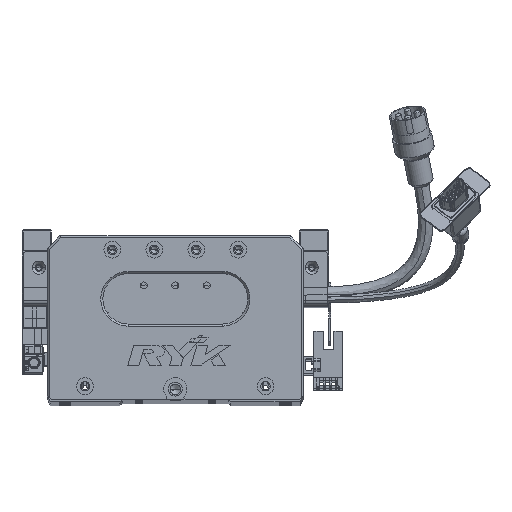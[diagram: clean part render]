
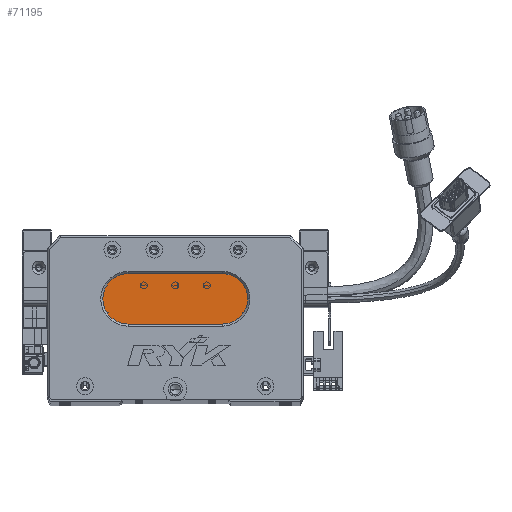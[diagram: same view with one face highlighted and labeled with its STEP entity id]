
A CAD part, top view. The second image highlights one B-rep face of the part: STEP entity #71195.
In plain terms, the highlighted planar face has unit normal (0, 0, 1) as drawn and (0, 0, -1) by its records, which use the part's own axes.
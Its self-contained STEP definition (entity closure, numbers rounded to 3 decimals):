
#7254 = DIRECTION ( 'NONE',  ( 1., 0., 0. ) ) ;
#7439 = ORIENTED_EDGE ( 'NONE', *, *, #72463, .T. ) ;
#9741 = CARTESIAN_POINT ( 'NONE',  ( 83.5, 48., 13. ) ) ;
#16029 = CARTESIAN_POINT ( 'NONE',  ( 38.5, 36., 13. ) ) ;
#22758 = DIRECTION ( 'NONE',  ( 0., 0., -1. ) ) ;
#23708 = VECTOR ( 'NONE', #53766, 1000. ) ;
#26715 = CARTESIAN_POINT ( 'NONE',  ( 83.5, 36., 13. ) ) ;
#27230 = CIRCLE ( 'NONE', #43556, 12. ) ;
#28757 = EDGE_CURVE ( 'NONE', #79557, #62641, #35171, .T. ) ;
#35171 = LINE ( 'NONE', #54194, #74810 ) ;
#35548 = DIRECTION ( 'NONE',  ( 0., 0., -1. ) ) ;
#36364 = CIRCLE ( 'NONE', #67636, 12. ) ;
#36388 = CARTESIAN_POINT ( 'NONE',  ( 83.5, 48., 13. ) ) ;
#41226 = CARTESIAN_POINT ( 'NONE',  ( 38.5, 48., 13. ) ) ;
#42044 = VERTEX_POINT ( 'NONE', #80740 ) ;
#43556 = AXIS2_PLACEMENT_3D ( 'NONE', #41226, #74486, #61353 ) ;
#45379 = CIRCLE ( 'NONE', #48480, 12. ) ;
#45622 = CARTESIAN_POINT ( 'NONE',  ( 38.5, 60., 13. ) ) ;
#46657 = LINE ( 'NONE', #26715, #23708 ) ;
#48480 = AXIS2_PLACEMENT_3D ( 'NONE', #9741, #55790, #83559 ) ;
#53766 = DIRECTION ( 'NONE',  ( -1., 0., 0. ) ) ;
#54194 = CARTESIAN_POINT ( 'NONE',  ( 83.5, 60., 13. ) ) ;
#55258 = ORIENTED_EDGE ( 'NONE', *, *, #71227, .T. ) ;
#55790 = DIRECTION ( 'NONE',  ( 0., 0., -1. ) ) ;
#55946 = CARTESIAN_POINT ( 'NONE',  ( 83.5, 60., 13. ) ) ;
#57159 = ORIENTED_EDGE ( 'NONE', *, *, #28757, .T. ) ;
#59482 = ORIENTED_EDGE ( 'NONE', *, *, #78002, .T. ) ;
#61353 = DIRECTION ( 'NONE',  ( -1., 0., 0. ) ) ;
#61859 = ORIENTED_EDGE ( 'NONE', *, *, #68619, .T. ) ;
#62364 = PLANE ( 'NONE',  #81622 ) ;
#62641 = VERTEX_POINT ( 'NONE', #55946 ) ;
#62949 = DIRECTION ( 'NONE',  ( -1., 0., 0. ) ) ;
#65804 = EDGE_LOOP ( 'NONE', ( #59482, #7439, #55258, #61859, #57159 ) ) ;
#67636 = AXIS2_PLACEMENT_3D ( 'NONE', #76674, #22758, #62949 ) ;
#68619 = EDGE_CURVE ( 'NONE', #42044, #79557, #27230, .T. ) ;
#69359 = DIRECTION ( 'NONE',  ( -1., 0., 0. ) ) ;
#71195 = ADVANCED_FACE ( 'NONE', ( #73941 ), #62364, .T. ) ;
#71227 = EDGE_CURVE ( 'NONE', #84055, #42044, #36364, .T. ) ;
#72463 = EDGE_CURVE ( 'NONE', #83886, #84055, #46657, .T. ) ;
#73941 = FACE_OUTER_BOUND ( 'NONE', #65804, .T. ) ;
#74486 = DIRECTION ( 'NONE',  ( 0., 0., -1. ) ) ;
#74810 = VECTOR ( 'NONE', #7254, 1000. ) ;
#76674 = CARTESIAN_POINT ( 'NONE',  ( 38.5, 48., 13. ) ) ;
#78002 = EDGE_CURVE ( 'NONE', #62641, #83886, #45379, .T. ) ;
#79557 = VERTEX_POINT ( 'NONE', #45622 ) ;
#80529 = CARTESIAN_POINT ( 'NONE',  ( 83.5, 36., 13. ) ) ;
#80740 = CARTESIAN_POINT ( 'NONE',  ( 26.5, 48., 13. ) ) ;
#81622 = AXIS2_PLACEMENT_3D ( 'NONE', #36388, #35548, #69359 ) ;
#83559 = DIRECTION ( 'NONE',  ( -1., 0., 0. ) ) ;
#83886 = VERTEX_POINT ( 'NONE', #80529 ) ;
#84055 = VERTEX_POINT ( 'NONE', #16029 ) ;
